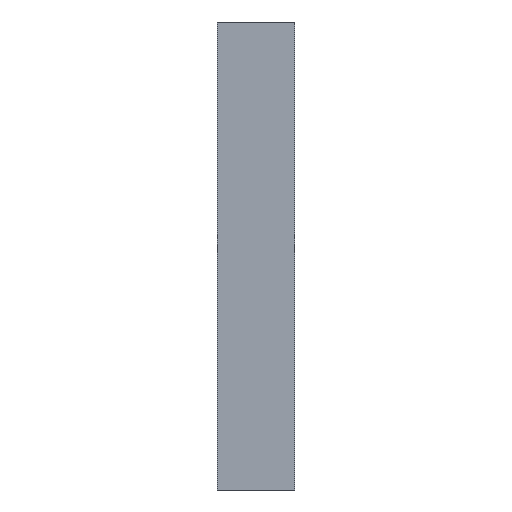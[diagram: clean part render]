
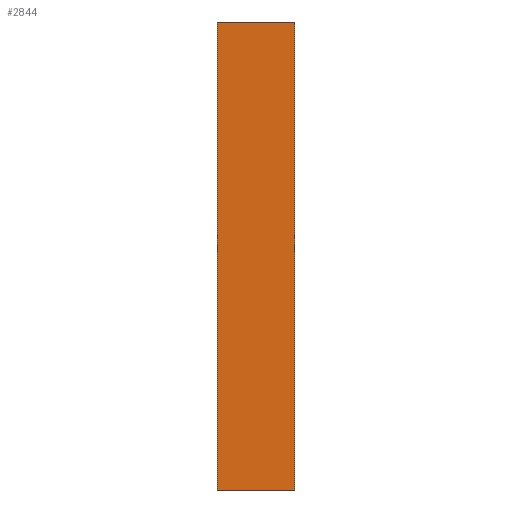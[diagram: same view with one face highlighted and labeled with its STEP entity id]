
A CAD part, left-side view. The second image highlights one B-rep face of the part: STEP entity #2844.
In plain terms, the highlighted planar face has unit normal (-1, 0, 0).
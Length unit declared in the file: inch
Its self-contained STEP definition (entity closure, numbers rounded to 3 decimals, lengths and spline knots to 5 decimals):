
#151 = VECTOR ( 'NONE', #1582, 39.37008 ) ;
#454 = EDGE_LOOP ( 'NONE', ( #12577, #2278, #19410, #18963 ) ) ;
#1059 = EDGE_CURVE ( 'NONE', #18203, #6645, #5660, .T. ) ;
#1165 = EDGE_CURVE ( 'NONE', #14203, #19079, #19077, .T. ) ;
#1223 = DIRECTION ( 'NONE',  ( 0., -1., 0. ) ) ;
#1516 = VECTOR ( 'NONE', #1223, 39.37008 ) ;
#1582 = DIRECTION ( 'NONE',  ( 0., 0., -1. ) ) ;
#2200 = VECTOR ( 'NONE', #7269, 39.37008 ) ;
#2278 = ORIENTED_EDGE ( 'NONE', *, *, #13147, .T. ) ;
#2844 = ADVANCED_FACE ( 'NONE', ( #13141 ), #19659, .T. ) ;
#3674 = CARTESIAN_POINT ( 'NONE',  ( -14.88415, 0., 11.38415 ) ) ;
#5660 = LINE ( 'NONE', #8665, #2200 ) ;
#6645 = VERTEX_POINT ( 'NONE', #3674 ) ;
#7269 = DIRECTION ( 'NONE',  ( 0., -1., 0. ) ) ;
#7394 = CARTESIAN_POINT ( 'NONE',  ( -14.88415, 0., -11.38415 ) ) ;
#8665 = CARTESIAN_POINT ( 'NONE',  ( -14.88415, 41.72729, 11.38415 ) ) ;
#9563 = LINE ( 'NONE', #9890, #151 ) ;
#9581 = DIRECTION ( 'NONE',  ( -1., 0., 0. ) ) ;
#9890 = CARTESIAN_POINT ( 'NONE',  ( -14.88415, 3.75, -11.38415 ) ) ;
#11056 = LINE ( 'NONE', #7394, #19662 ) ;
#11146 = EDGE_CURVE ( 'NONE', #6645, #19079, #11056, .T. ) ;
#11409 = CARTESIAN_POINT ( 'NONE',  ( -14.88415, 41.72729, -11.38415 ) ) ;
#12395 = AXIS2_PLACEMENT_3D ( 'NONE', #11409, #9581, #21278 ) ;
#12577 = ORIENTED_EDGE ( 'NONE', *, *, #1059, .F. ) ;
#13141 = FACE_OUTER_BOUND ( 'NONE', #454, .T. ) ;
#13147 = EDGE_CURVE ( 'NONE', #18203, #14203, #9563, .T. ) ;
#14203 = VERTEX_POINT ( 'NONE', #14221 ) ;
#14221 = CARTESIAN_POINT ( 'NONE',  ( -14.88415, 3.75, -11.38415 ) ) ;
#16914 = CARTESIAN_POINT ( 'NONE',  ( -14.88415, 0., -11.38415 ) ) ;
#18203 = VERTEX_POINT ( 'NONE', #19141 ) ;
#18890 = DIRECTION ( 'NONE',  ( 0., 0., -1. ) ) ;
#18963 = ORIENTED_EDGE ( 'NONE', *, *, #11146, .F. ) ;
#19077 = LINE ( 'NONE', #20905, #1516 ) ;
#19079 = VERTEX_POINT ( 'NONE', #16914 ) ;
#19141 = CARTESIAN_POINT ( 'NONE',  ( -14.88415, 3.75, 11.38415 ) ) ;
#19410 = ORIENTED_EDGE ( 'NONE', *, *, #1165, .T. ) ;
#19659 = PLANE ( 'NONE',  #12395 ) ;
#19662 = VECTOR ( 'NONE', #18890, 39.37008 ) ;
#20905 = CARTESIAN_POINT ( 'NONE',  ( -14.88415, 41.72729, -11.38415 ) ) ;
#21278 = DIRECTION ( 'NONE',  ( 0., 0., 1. ) ) ;
